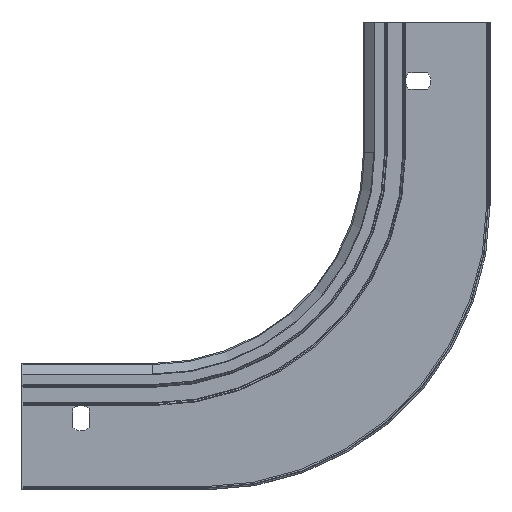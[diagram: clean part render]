
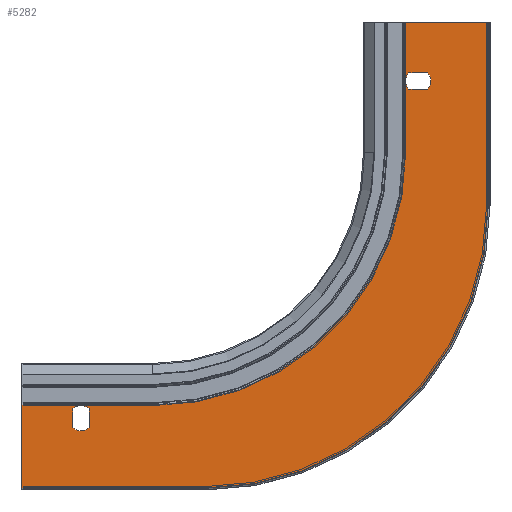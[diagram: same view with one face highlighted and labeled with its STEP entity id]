
A CAD part, left-side view. The second image highlights one B-rep face of the part: STEP entity #5282.
In plain terms, the highlighted planar face has unit normal (-1, 0, 0) as drawn and (0, -1, 0) by its records, which use the part's own axes.
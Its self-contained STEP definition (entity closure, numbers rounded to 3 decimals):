
#44 = CARTESIAN_POINT ( 'NONE',  ( 194., 0., -188. ) ) ;
#119 = VERTEX_POINT ( 'NONE', #3340 ) ;
#135 = CARTESIAN_POINT ( 'NONE',  ( 135., 0., -221. ) ) ;
#160 = ORIENTED_EDGE ( 'NONE', *, *, #4778, .F. ) ;
#202 = LINE ( 'NONE', #664, #1455 ) ;
#271 = VERTEX_POINT ( 'NONE', #2246 ) ;
#329 = DIRECTION ( 'NONE',  ( 0., 0., -1. ) ) ;
#365 = ORIENTED_EDGE ( 'NONE', *, *, #4415, .F. ) ;
#427 = VECTOR ( 'NONE', #1976, 1000. ) ;
#441 = LINE ( 'NONE', #4548, #5491 ) ;
#578 = EDGE_CURVE ( 'NONE', #5802, #3397, #202, .T. ) ;
#585 = EDGE_CURVE ( 'NONE', #1458, #4541, #1647, .T. ) ;
#608 = DIRECTION ( 'NONE',  ( 0., 0., -1. ) ) ;
#622 = CIRCLE ( 'NONE', #5972, 6. ) ;
#638 = DIRECTION ( 'NONE',  ( 0., -1., 0. ) ) ;
#661 = CARTESIAN_POINT ( 'NONE',  ( 34., 0., -28. ) ) ;
#664 = CARTESIAN_POINT ( 'NONE',  ( 190., 0., 0. ) ) ;
#703 = VERTEX_POINT ( 'NONE', #5043 ) ;
#706 = VERTEX_POINT ( 'NONE', #3110 ) ;
#752 = DIRECTION ( 'NONE',  ( 0., 0., -1. ) ) ;
#810 = VECTOR ( 'NONE', #2327, 1000. ) ;
#815 = VECTOR ( 'NONE', #3519, 1000. ) ;
#818 = VECTOR ( 'NONE', #329, 1000. ) ;
#923 = CARTESIAN_POINT ( 'NONE',  ( 222., 0., -181.669 ) ) ;
#971 = ORIENTED_EDGE ( 'NONE', *, *, #4264, .F. ) ;
#986 = DIRECTION ( 'NONE',  ( 0., -1., 0. ) ) ;
#1002 = VECTOR ( 'NONE', #3265, 1000. ) ;
#1041 = ORIENTED_EDGE ( 'NONE', *, *, #2324, .F. ) ;
#1161 = AXIS2_PLACEMENT_3D ( 'NONE', #2522, #4379, #2053 ) ;
#1200 = CIRCLE ( 'NONE', #4424, 6. ) ;
#1208 = VERTEX_POINT ( 'NONE', #5896 ) ;
#1397 = DIRECTION ( 'NONE',  ( 0., -1., 0. ) ) ;
#1423 = DIRECTION ( 'NONE',  ( 1., 0., 0. ) ) ;
#1455 = VECTOR ( 'NONE', #5787, 1000. ) ;
#1458 = VERTEX_POINT ( 'NONE', #4057 ) ;
#1487 = CIRCLE ( 'NONE', #3833, 134. ) ;
#1577 = EDGE_CURVE ( 'NONE', #703, #4845, #2308, .T. ) ;
#1647 = CIRCLE ( 'NONE', #1161, 6. ) ;
#1707 = CARTESIAN_POINT ( 'NONE',  ( 194., 0., -188. ) ) ;
#1743 = CARTESIAN_POINT ( 'NONE',  ( 222., 0., -222. ) ) ;
#1798 = EDGE_CURVE ( 'NONE', #2645, #703, #5269, .T. ) ;
#1814 = CARTESIAN_POINT ( 'NONE',  ( 198., 0., -192.472 ) ) ;
#1834 = CARTESIAN_POINT ( 'NONE',  ( 222., 0., -221. ) ) ;
#1932 = ORIENTED_EDGE ( 'NONE', *, *, #1798, .F. ) ;
#1976 = DIRECTION ( 'NONE',  ( 1., 0., 0. ) ) ;
#1982 = VECTOR ( 'NONE', #4917, 1000. ) ;
#1988 = CARTESIAN_POINT ( 'NONE',  ( 190., 0., -183.528 ) ) ;
#2053 = DIRECTION ( 'NONE',  ( 0., 0., -1. ) ) ;
#2246 = CARTESIAN_POINT ( 'NONE',  ( 198., 0., -183.528 ) ) ;
#2291 = LINE ( 'NONE', #2416, #2859 ) ;
#2308 = LINE ( 'NONE', #3295, #2644 ) ;
#2311 = FACE_BOUND ( 'NONE', #2427, .T. ) ;
#2324 = EDGE_CURVE ( 'NONE', #3397, #3030, #2455, .T. ) ;
#2327 = DIRECTION ( 'NONE',  ( -1., 0., 0. ) ) ;
#2371 = CARTESIAN_POINT ( 'NONE',  ( 40.331, 0., 0. ) ) ;
#2416 = CARTESIAN_POINT ( 'NONE',  ( 198., 0., 0. ) ) ;
#2425 = LINE ( 'NONE', #5166, #810 ) ;
#2427 = EDGE_LOOP ( 'NONE', ( #1041, #2571, #3131, #4088, #971 ) ) ;
#2437 = CARTESIAN_POINT ( 'NONE',  ( 194., 0., -188. ) ) ;
#2455 = CIRCLE ( 'NONE', #5958, 6. ) ;
#2522 = CARTESIAN_POINT ( 'NONE',  ( 34., 0., -28. ) ) ;
#2546 = CARTESIAN_POINT ( 'NONE',  ( 1., 0., -87. ) ) ;
#2571 = ORIENTED_EDGE ( 'NONE', *, *, #578, .F. ) ;
#2644 = VECTOR ( 'NONE', #1423, 1000. ) ;
#2645 = VERTEX_POINT ( 'NONE', #4126 ) ;
#2669 = VERTEX_POINT ( 'NONE', #2755 ) ;
#2670 = EDGE_CURVE ( 'NONE', #3915, #3582, #1487, .T. ) ;
#2755 = CARTESIAN_POINT ( 'NONE',  ( 29.528, 0., -32. ) ) ;
#2835 = CARTESIAN_POINT ( 'NONE',  ( 0., 0., 0. ) ) ;
#2859 = VECTOR ( 'NONE', #6007, 1000. ) ;
#2871 = AXIS2_PLACEMENT_3D ( 'NONE', #2835, #1397, #3718 ) ;
#3001 = LINE ( 'NONE', #4848, #1982 ) ;
#3030 = VERTEX_POINT ( 'NONE', #1814 ) ;
#3095 = ORIENTED_EDGE ( 'NONE', *, *, #3601, .F. ) ;
#3102 = VERTEX_POINT ( 'NONE', #4754 ) ;
#3110 = CARTESIAN_POINT ( 'NONE',  ( 194., 0., -182. ) ) ;
#3128 = CARTESIAN_POINT ( 'NONE',  ( 135., 0., -87. ) ) ;
#3131 = ORIENTED_EDGE ( 'NONE', *, *, #5393, .F. ) ;
#3158 = EDGE_CURVE ( 'NONE', #119, #5485, #4693, .T. ) ;
#3173 = CARTESIAN_POINT ( 'NONE',  ( 160., 0., -62. ) ) ;
#3265 = DIRECTION ( 'NONE',  ( -1., 0., 0. ) ) ;
#3273 = FACE_OUTER_BOUND ( 'NONE', #4351, .T. ) ;
#3295 = CARTESIAN_POINT ( 'NONE',  ( 160., 0., -181.669 ) ) ;
#3340 = CARTESIAN_POINT ( 'NONE',  ( 1., 0., 0. ) ) ;
#3397 = VERTEX_POINT ( 'NONE', #4256 ) ;
#3460 = EDGE_CURVE ( 'NONE', #1208, #2669, #622, .T. ) ;
#3519 = DIRECTION ( 'NONE',  ( 0., 0., 1. ) ) ;
#3545 = DIRECTION ( 'NONE',  ( 0., -1., 0. ) ) ;
#3582 = VERTEX_POINT ( 'NONE', #2546 ) ;
#3601 = EDGE_CURVE ( 'NONE', #4845, #3102, #4071, .T. ) ;
#3630 = DIRECTION ( 'NONE',  ( 0., 0., -1. ) ) ;
#3649 = CARTESIAN_POINT ( 'NONE',  ( 38.472, 0., -24. ) ) ;
#3666 = DIRECTION ( 'NONE',  ( 0., 0., 1. ) ) ;
#3718 = DIRECTION ( 'NONE',  ( 0., 0., -1. ) ) ;
#3833 = AXIS2_PLACEMENT_3D ( 'NONE', #3128, #4975, #3666 ) ;
#3837 = AXIS2_PLACEMENT_3D ( 'NONE', #1707, #3545, #3630 ) ;
#3915 = VERTEX_POINT ( 'NONE', #135 ) ;
#4057 = CARTESIAN_POINT ( 'NONE',  ( 38.472, 0., -32. ) ) ;
#4071 = LINE ( 'NONE', #1743, #818 ) ;
#4088 = ORIENTED_EDGE ( 'NONE', *, *, #5046, .F. ) ;
#4126 = CARTESIAN_POINT ( 'NONE',  ( 40.331, 0., -62. ) ) ;
#4145 = FACE_BOUND ( 'NONE', #4325, .T. ) ;
#4256 = CARTESIAN_POINT ( 'NONE',  ( 190., 0., -192.472 ) ) ;
#4264 = EDGE_CURVE ( 'NONE', #3030, #271, #2291, .T. ) ;
#4325 = EDGE_LOOP ( 'NONE', ( #4777, #5410, #4607, #5610 ) ) ;
#4342 = LINE ( 'NONE', #5862, #815 ) ;
#4351 = EDGE_LOOP ( 'NONE', ( #160, #5010, #365, #3095, #4841, #1932, #5865, #5897 ) ) ;
#4379 = DIRECTION ( 'NONE',  ( 0., -1., 0. ) ) ;
#4415 = EDGE_CURVE ( 'NONE', #3102, #3915, #4626, .T. ) ;
#4418 = CIRCLE ( 'NONE', #3837, 6. ) ;
#4424 = AXIS2_PLACEMENT_3D ( 'NONE', #2437, #5701, #608 ) ;
#4541 = VERTEX_POINT ( 'NONE', #3649 ) ;
#4548 = CARTESIAN_POINT ( 'NONE',  ( 40.331, 0., -62. ) ) ;
#4607 = ORIENTED_EDGE ( 'NONE', *, *, #585, .F. ) ;
#4610 = DIRECTION ( 'NONE',  ( 0., 0., 1. ) ) ;
#4626 = LINE ( 'NONE', #1834, #1002 ) ;
#4636 = EDGE_CURVE ( 'NONE', #4541, #1208, #2425, .T. ) ;
#4693 = LINE ( 'NONE', #5607, #427 ) ;
#4710 = DIRECTION ( 'NONE',  ( 0., 0., -1. ) ) ;
#4754 = CARTESIAN_POINT ( 'NONE',  ( 222., 0., -221. ) ) ;
#4777 = ORIENTED_EDGE ( 'NONE', *, *, #3460, .F. ) ;
#4778 = EDGE_CURVE ( 'NONE', #3582, #119, #4342, .T. ) ;
#4841 = ORIENTED_EDGE ( 'NONE', *, *, #1577, .F. ) ;
#4845 = VERTEX_POINT ( 'NONE', #923 ) ;
#4848 = CARTESIAN_POINT ( 'NONE',  ( 0., 0., -32. ) ) ;
#4917 = DIRECTION ( 'NONE',  ( 1., 0., 0. ) ) ;
#4975 = DIRECTION ( 'NONE',  ( 0., 1., 0. ) ) ;
#5010 = ORIENTED_EDGE ( 'NONE', *, *, #2670, .F. ) ;
#5043 = CARTESIAN_POINT ( 'NONE',  ( 160., 0., -181.669 ) ) ;
#5046 = EDGE_CURVE ( 'NONE', #271, #706, #4418, .T. ) ;
#5119 = PLANE ( 'NONE',  #2871 ) ;
#5166 = CARTESIAN_POINT ( 'NONE',  ( 0., 0., -24. ) ) ;
#5258 = DIRECTION ( 'NONE',  ( 0., 0., -1. ) ) ;
#5269 = CIRCLE ( 'NONE', #5465, 119.669 ) ;
#5282 = ADVANCED_FACE ( 'NONE', ( #4145, #2311, #3273 ), #5119, .T. ) ;
#5393 = EDGE_CURVE ( 'NONE', #706, #5802, #1200, .T. ) ;
#5410 = ORIENTED_EDGE ( 'NONE', *, *, #4636, .F. ) ;
#5465 = AXIS2_PLACEMENT_3D ( 'NONE', #3173, #5876, #752 ) ;
#5485 = VERTEX_POINT ( 'NONE', #2371 ) ;
#5491 = VECTOR ( 'NONE', #4610, 1000. ) ;
#5607 = CARTESIAN_POINT ( 'NONE',  ( 40., 0., 0. ) ) ;
#5610 = ORIENTED_EDGE ( 'NONE', *, *, #5913, .F. ) ;
#5701 = DIRECTION ( 'NONE',  ( 0., -1., 0. ) ) ;
#5787 = DIRECTION ( 'NONE',  ( 0., 0., -1. ) ) ;
#5802 = VERTEX_POINT ( 'NONE', #1988 ) ;
#5862 = CARTESIAN_POINT ( 'NONE',  ( 1., 0., -87. ) ) ;
#5865 = ORIENTED_EDGE ( 'NONE', *, *, #5990, .T. ) ;
#5876 = DIRECTION ( 'NONE',  ( 0., -1., 0. ) ) ;
#5896 = CARTESIAN_POINT ( 'NONE',  ( 29.528, 0., -24. ) ) ;
#5897 = ORIENTED_EDGE ( 'NONE', *, *, #3158, .F. ) ;
#5913 = EDGE_CURVE ( 'NONE', #2669, #1458, #3001, .T. ) ;
#5958 = AXIS2_PLACEMENT_3D ( 'NONE', #44, #986, #4710 ) ;
#5972 = AXIS2_PLACEMENT_3D ( 'NONE', #661, #638, #5258 ) ;
#5990 = EDGE_CURVE ( 'NONE', #2645, #5485, #441, .T. ) ;
#6007 = DIRECTION ( 'NONE',  ( 0., 0., 1. ) ) ;
